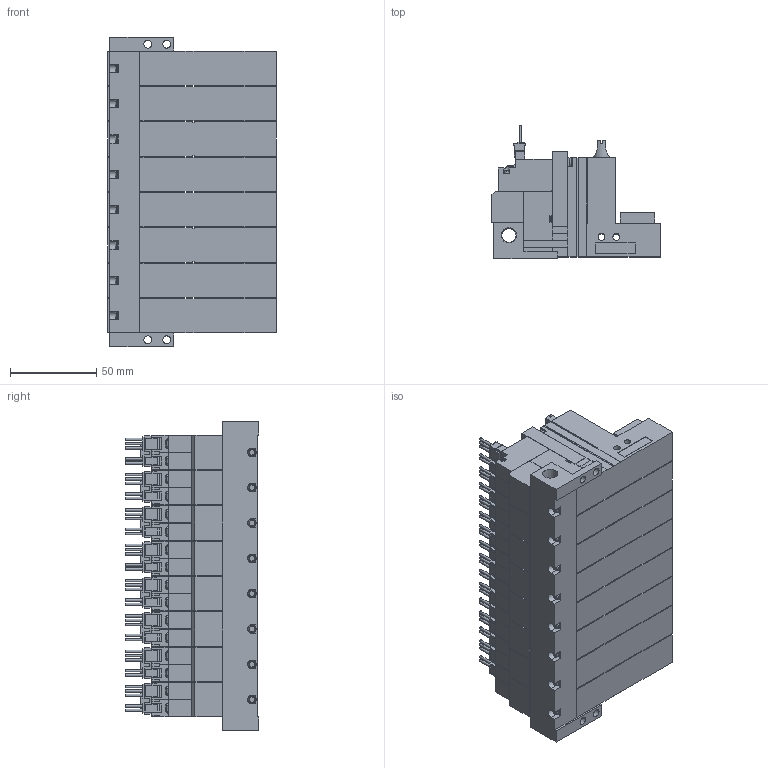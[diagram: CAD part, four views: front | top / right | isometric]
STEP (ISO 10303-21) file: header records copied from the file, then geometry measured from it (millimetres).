
FILE_DESCRIPTION(('STEP AP203'),'1');
FILE_NAME('ZLC5WLR808.stp','2025-02-25T05:04:10',(' '),(' '),'Spatial InterOp 3D',' ',' ');
FILE_SCHEMA(('CONFIG_CONTROL_DESIGN'));
Length unit declared in the file: millimetre
Products named in the file (5): BMC22M※※※※ZLC5WLR808; Solenoid valve W; Pressure sensor ZLC; Unit LC; Base MR80R
Assembly tree (25 placements, depth 2):
  BMC22M※※※※ZLC5WLR808
    Solenoid valve W  x8
    Pressure sensor ZLC  x8
    Unit LC  x8
    Base MR80R
Bounding box: 97.6 x 77.45 x 179.5 mm (x, y, z)
Volume: 718515.9 mm3; surface area: 190656.8 mm2
Topology: 25 solids, 25 shells, 2925 faces, 7939 edges, 5216 vertices
Faces by surface type: plane 2526, cylinder 301, cone 58, torus 40
Full cylindrical faces by diameter (mm): 1.4 x40, 2.5 x8, 3 x32, 3.5 x32, 3.6 x8, 4 x16, 4.134 x8, 4.5 x4, 5.2 x8, 6 x8, 6.6 x8, 8.279 x1
Entity records: 15437 total; most frequent: CARTESIAN_POINT 3041, DIRECTION 2455, ORIENTED_EDGE 2358, EDGE_CURVE 1179, LINE 933, VECTOR 933, VERTEX_POINT 831, AXIS2_PLACEMENT_3D 761
